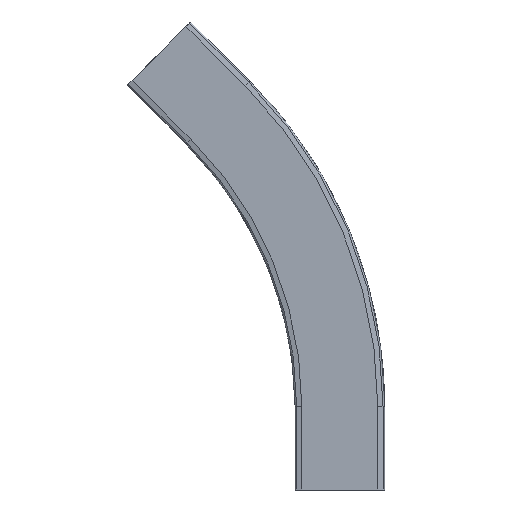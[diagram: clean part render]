
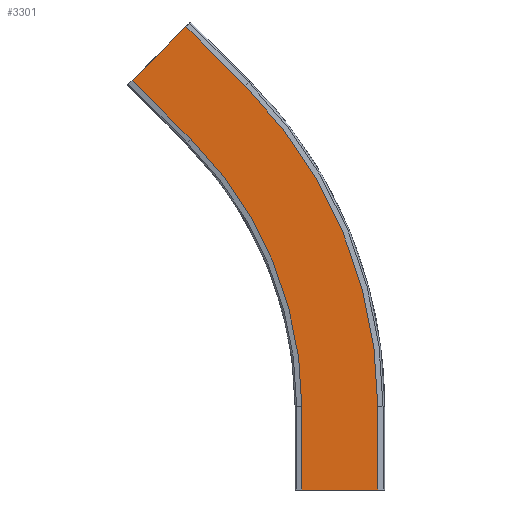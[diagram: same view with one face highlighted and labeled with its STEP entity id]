
A CAD part, front view. The second image highlights one B-rep face of the part: STEP entity #3301.
In plain terms, the highlighted planar face has unit normal (0, -1, 0).
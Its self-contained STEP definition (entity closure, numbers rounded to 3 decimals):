
#343=FACE_OUTER_BOUND('',#523,.T.);
#523=EDGE_LOOP('',(#3005,#3006,#3007,#3008,#3009,#3010,#3011,#3012));
#605=CIRCLE('',#3548,436.5);
#608=CIRCLE('',#3554,363.5);
#926=LINE('',#5781,#1272);
#931=LINE('',#5790,#1277);
#933=LINE('',#5795,#1279);
#948=LINE('',#5835,#1294);
#953=LINE('',#5846,#1299);
#954=LINE('',#5848,#1300);
#1272=VECTOR('',#4309,10.);
#1277=VECTOR('',#4316,10.);
#1279=VECTOR('',#4320,10.);
#1294=VECTOR('',#4361,10.);
#1299=VECTOR('',#4374,10.);
#1300=VECTOR('',#4377,10.);
#1588=VERTEX_POINT('',#5778);
#1589=VERTEX_POINT('',#5780);
#1592=VERTEX_POINT('',#5787);
#1593=VERTEX_POINT('',#5792);
#1603=VERTEX_POINT('',#5818);
#1605=VERTEX_POINT('',#5828);
#1606=VERTEX_POINT('',#5833);
#1608=VERTEX_POINT('',#5844);
#2044=EDGE_CURVE('',#1589,#1588,#926,.T.);
#2049=EDGE_CURVE('',#1589,#1592,#931,.T.);
#2051=EDGE_CURVE('',#1588,#1593,#933,.T.);
#2064=EDGE_CURVE('',#1593,#1603,#605,.T.);
#2070=EDGE_CURVE('',#1592,#1605,#608,.T.);
#2072=EDGE_CURVE('',#1603,#1606,#948,.T.);
#2077=EDGE_CURVE('',#1605,#1608,#953,.T.);
#2078=EDGE_CURVE('',#1606,#1608,#954,.T.);
#3005=ORIENTED_EDGE('',*,*,#2078,.T.);
#3006=ORIENTED_EDGE('',*,*,#2077,.F.);
#3007=ORIENTED_EDGE('',*,*,#2070,.F.);
#3008=ORIENTED_EDGE('',*,*,#2049,.F.);
#3009=ORIENTED_EDGE('',*,*,#2044,.T.);
#3010=ORIENTED_EDGE('',*,*,#2051,.T.);
#3011=ORIENTED_EDGE('',*,*,#2064,.T.);
#3012=ORIENTED_EDGE('',*,*,#2072,.T.);
#3130=PLANE('',#3560);
#3301=ADVANCED_FACE('',(#343),#3130,.T.);
#3548=AXIS2_PLACEMENT_3D('',#5820,#4341,#4342);
#3554=AXIS2_PLACEMENT_3D('',#5831,#4356,#4357);
#3560=AXIS2_PLACEMENT_3D('',#5847,#4375,#4376);
#4309=DIRECTION('',(1.,0.,0.));
#4316=DIRECTION('',(0.,0.,1.));
#4320=DIRECTION('',(0.,0.,1.));
#4341=DIRECTION('center_axis',(0.,-1.,0.));
#4342=DIRECTION('ref_axis',(1.,0.,0.));
#4356=DIRECTION('center_axis',(0.,-1.,0.));
#4357=DIRECTION('ref_axis',(1.,0.,0.));
#4361=DIRECTION('',(-0.707,0.,0.707));
#4374=DIRECTION('',(-0.707,0.,0.707));
#4375=DIRECTION('center_axis',(0.,-1.,0.));
#4376=DIRECTION('ref_axis',(0.707,0.,-0.707));
#4377=DIRECTION('',(-0.707,0.,-0.707));
#5778=CARTESIAN_POINT('',(36.5,-11.,0.));
#5780=CARTESIAN_POINT('',(-36.5,-11.,0.));
#5781=CARTESIAN_POINT('',(-36.5,-11.,0.));
#5787=CARTESIAN_POINT('',(-36.5,-11.,80.));
#5790=CARTESIAN_POINT('',(-36.5,-11.,0.));
#5792=CARTESIAN_POINT('',(36.5,-11.,80.));
#5795=CARTESIAN_POINT('',(36.5,-11.,0.));
#5818=CARTESIAN_POINT('',(-91.348,-11.,388.652));
#5820=CARTESIAN_POINT('Origin',(-400.,-11.,80.));
#5828=CARTESIAN_POINT('',(-142.967,-11.,337.033));
#5831=CARTESIAN_POINT('Origin',(-400.,-11.,80.));
#5833=CARTESIAN_POINT('',(-147.916,-11.,445.221));
#5835=CARTESIAN_POINT('',(187.365,-11.,109.939));
#5844=CARTESIAN_POINT('',(-199.535,-11.,393.602));
#5846=CARTESIAN_POINT('',(135.746,-11.,58.321));
#5847=CARTESIAN_POINT('Origin',(187.365,-11.,109.939));
#5848=CARTESIAN_POINT('',(-159.76,-11.,433.377));
